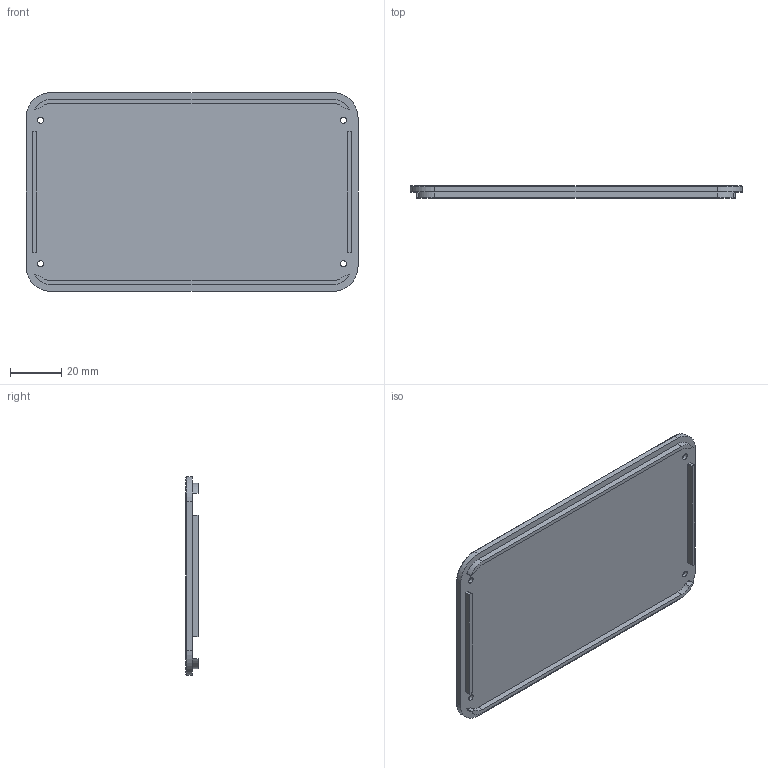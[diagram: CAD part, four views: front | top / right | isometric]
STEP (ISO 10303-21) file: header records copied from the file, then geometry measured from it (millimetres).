
FILE_DESCRIPTION(('Open CASCADE Model'),'2;1');
FILE_NAME('Open CASCADE Shape Model','2026-10-20T15:49:44',('Author'),( 'Open CASCADE'),'Open CASCADE STEP processor 7.8','Open CASCADE 7.8' ,'Unknown');
FILE_SCHEMA(('AUTOMOTIVE_DESIGN { 1 0 10303 214 1 1 1 1 }'));
Length unit declared in the file: millimetre
Products named in the file (1): Open CASCADE STEP translator 7.8 5
Bounding box: 129.4 x 4.7 x 77.4 mm (x, y, z)
Volume: 24897.6 mm3; surface area: 22416.7 mm2
Topology: 1 solids, 1 shells, 70 faces, 168 edges, 108 vertices
Faces by surface type: cylinder 32, plane 30, torus 8
Full cylindrical faces by diameter (mm): 2.4 x4, 5 x4
Entity records: 4140 total; most frequent: CARTESIAN_POINT 823, DIRECTION 592, ORIENTED_EDGE 336, PCURVE 336, DEFINITIONAL_REPRESENTATION 336, LINE 244, VECTOR 244, EDGE_CURVE 168
